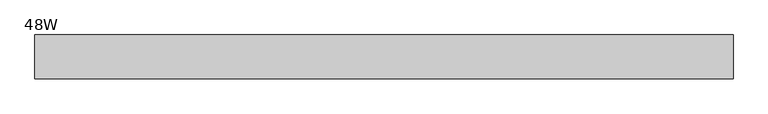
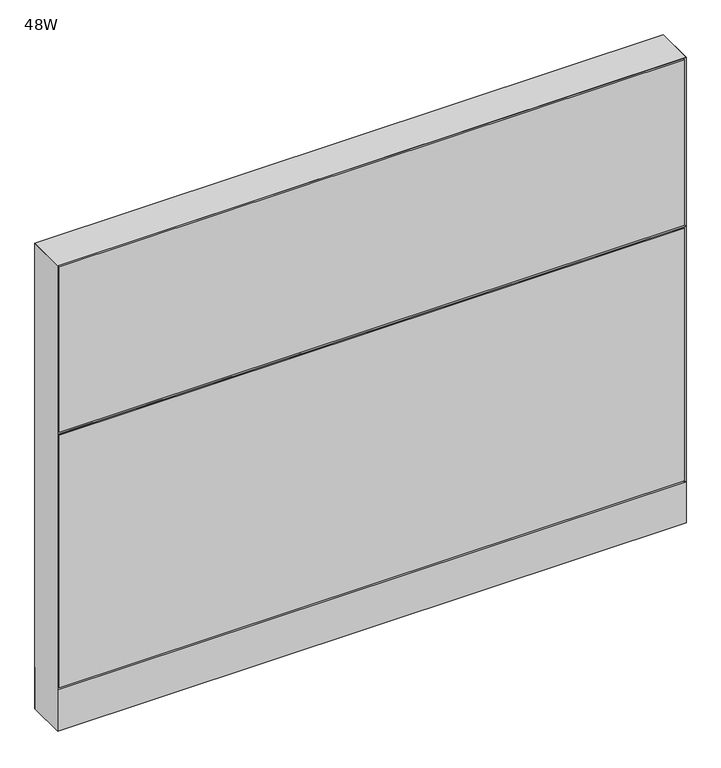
"""IFC4 building model written with IfcOpenShell, lengths in millimetres: furniture geometry, Steelcase - Montage - Frame - 38H - Enhanced Monolithic - Base Cavity : 48W."""

from ifc_helpers import new_model, si_unit, point, frame, frame_2d, origin, origin_with_axes, place, context, project, spatial, polyline, circle_curve, trimmed, segment, composite_curve, outline, extrude, faceted_brep, source, transform, mapped, element, save


def furniture_48w_e3be6d56(model_context):
    return source(origin(), model_context, "Body", "SolidModel", [
        extrude(outline(polyline([(3.175, 31.7500194), (3.175, 38.1000194), (1216.025, 38.1000194), (1216.025, 31.7500194), (3.175, 31.7500194)])), frame((0.0, 0.0, 92.075), z_axis=(0.0, 0.0, 1.0), x_axis=(1.0, 0.0, 0.0)), (0.0, 0.0, 1.0), 863.6),
        faceted_brep([(0.0, -38.1026297, 612.775), (1219.2, -38.1026297, 612.775), (1212.8500047, -31.7526299, 619.1249997), (6.3499917, -31.7526299, 619.1249997), (6.3499917, -31.7526299, 606.4250003), (1212.8500047, -31.7526299, 606.4250003)], [[[0, 1, 2, 3]], [[1, 0, 4, 5]], [[3, 2, 5, 4]], [[0, 3, 4]], [[2, 1, 5]]]),
        extrude(outline(polyline([(3.175, -31.7500194), (1216.025, -31.7500194), (1216.025, -38.1000194), (3.175, -38.1000194), (3.175, -31.7500194)])), frame((0.0, 0.0, 92.075), z_axis=(0.0, 0.0, 1.0), x_axis=(1.0, 0.0, 0.0)), (0.0, 0.0, 1.0), 517.525),
        extrude(outline(polyline([(3.175, -31.7500194), (1216.025, -31.7500194), (1216.025, -38.1000194), (3.175, -38.1000194), (3.175, -31.7500194)])), frame((0.0, 0.0, 615.95), z_axis=(0.0, 0.0, 1.0), x_axis=(1.0, 0.0, 0.0)), (0.0, 0.0, 1.0), 339.725),
        extrude(outline(polyline([(6.350003, -31.7499985), (1212.849997, -31.7499985), (1219.2, -38.1000015), (0.0, -38.1000015), (6.350003, -31.7499985)])), frame((0.0, 0.0, 4.064), z_axis=(0.0, 0.0, 1.0), x_axis=(1.0, 0.0, 0.0)), (0.0, 0.0, 1.0), 84.835997),
        extrude(outline(polyline([(6.3500002, 31.7500017), (0.0, 38.1000015), (1219.2, 38.1000015), (1212.8500002, 31.7500017), (6.3500002, 31.7500017)])), frame((0.0, 0.0, 4.064), z_axis=(0.0, 0.0, 1.0), x_axis=(1.0, 0.0, 0.0)), (0.0, 0.0, 1.0), 84.835997),
        faceted_brep([(1219.2, -38.1000015, 958.85), (0.0, -38.1000015, 958.85), (6.3500484, -31.749953, 952.4999516), (1212.8499516, -31.749953, 952.4999516), (6.3500484, 31.749953, 952.4999516), (1212.8499516, 31.749953, 952.4999516), (0.0, 38.1000015, 958.85), (1219.2, 38.1000015, 958.85)], [[[0, 1, 2, 3]], [[3, 2, 4, 5]], [[6, 7, 5, 4]], [[1, 0, 7, 6]], [[2, 1, 6, 4]], [[0, 3, 5, 7]]]),
        extrude(outline(composite_curve([segment(trimmed(circle_curve(frame_2d((44.45, 0.0)), 15.24), [point((29.21, 0.0))], [point((59.69, 0.0))], False, "CARTESIAN"), True, "CONTINUOUS"), segment(trimmed(circle_curve(frame_2d((44.45, 0.0)), 15.24), [point((59.69, 0.0))], [point((29.21, 0.0))], False, "CARTESIAN"), True, "CONTINUOUS")], self_intersect=False)), origin_with_axes(), (0.0, 0.0, 1.0), 4.064),
        extrude(outline(composite_curve([segment(trimmed(circle_curve(frame_2d((1174.75, 0.0)), 15.24), [point((1159.51, 0.0))], [point((1189.99, 0.0))], False, "CARTESIAN"), True, "CONTINUOUS"), segment(trimmed(circle_curve(frame_2d((1174.75, 0.0)), 15.24), [point((1189.99, 0.0))], [point((1159.51, 0.0))], False, "CARTESIAN"), True, "CONTINUOUS")], self_intersect=False)), origin_with_axes(), (0.0, 0.0, 1.0), 4.064),
        faceted_brep([(1219.2, -38.1000106, 4.064), (1219.2, 38.1000015, 4.064), (1219.2, 38.1000015, 958.85), (1219.2, -38.1000106, 958.8499637), (0.0, 38.1000015, 4.064), (0.0, -38.1000015, 4.064), (0.0, -38.1000015, 958.85), (0.0, 38.1000015, 958.85), (1212.8499879, 31.7500017, 606.425), (6.35, 31.7500017, 606.425), (6.3499998, 31.7500017, 619.125), (1212.8499879, 31.7500017, 619.125), (6.35, -31.7499985, 619.125), (1212.8499879, -31.7499985, 619.125), (6.350003, -31.7499985, 606.425), (1212.8499879, -31.7499985, 606.425), (6.35, 31.7500015, 4.064), (6.35, -31.7500015, 4.064), (1212.8499879, 31.7499894, 4.064), (1212.8499879, -31.7499985, 4.064), (6.35, 31.7500015, 952.5), (6.35, -31.7500015, 952.5), (1212.8499879, -31.7499985, 952.4999516), (1212.8499879, 31.7499896, 952.4999516)], [[[0, 1, 2, 3]], [[4, 5, 6, 7]], [[8, 9, 10, 11]], [[11, 10, 12, 13]], [[13, 12, 14, 15]], [[9, 8, 15, 14]], [[16, 17, 5, 4]], [[18, 1, 0, 19]], [[16, 4, 7, 20, 10, 9]], [[5, 17, 14, 12, 21, 6]], [[17, 16, 9, 14]], [[12, 10, 20, 21]], [[18, 19, 15, 8]], [[11, 13, 22, 23]], [[19, 0, 3, 22, 13, 15]], [[1, 18, 8, 11, 23, 2]], [[7, 6, 21, 20]], [[3, 2, 23, 22]]]),
    ])


if __name__ == "__main__":
    model = new_model("IFC4")
    model_context = context("Model", 3, world=origin())
    ifc_project = project(units=[si_unit("LENGTHUNIT", "METRE", prefix="MILLI")], contexts=[model_context])
    site = spatial("IfcSite", under=ifc_project)
    building = spatial("IfcBuilding", under=site)
    placement = place(None, origin())
    furniture_48w_shape = furniture_48w_e3be6d56(model_context)
    element("IfcFurniture", 1, ObjectType="Steelcase - Montage - Frame - 38H - Enhanced Monolithic - Base Cavity : 48W", at=placement, inside=building, context=model_context, shape_type="MappedRepresentation", body=[
        mapped(furniture_48w_shape, transform((0.0, 0.0, 0.0), x_axis=(1.0, 0.0, 0.0), y_axis=(0.0, 1.0, 0.0), z_axis=(0.0, 0.0, 1.0))),
    ])
    save(model, "model.ifc")
